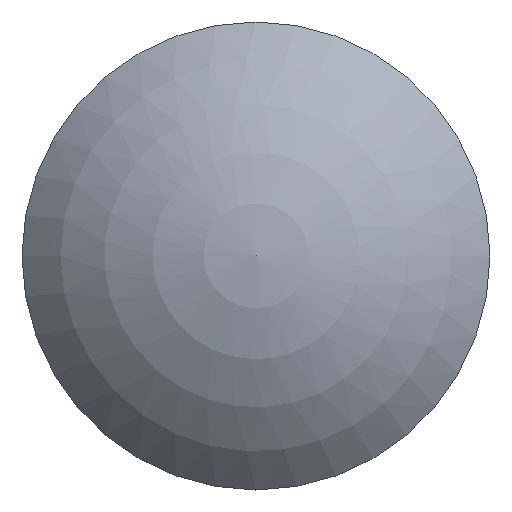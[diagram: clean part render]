
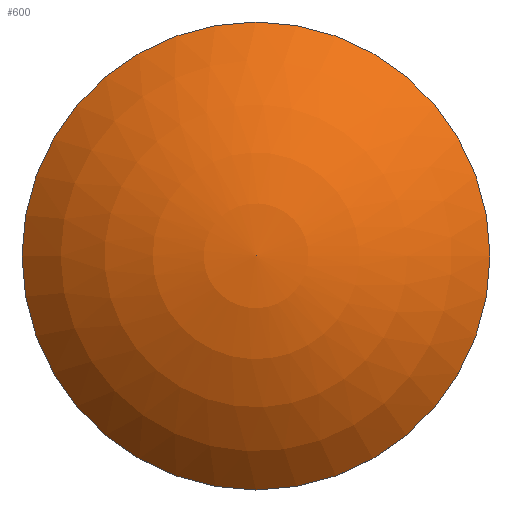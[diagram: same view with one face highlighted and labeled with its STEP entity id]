
A CAD part, top view. The second image highlights one B-rep face of the part: STEP entity #600.
In plain terms, the highlighted spherical face has radius 25.801 mm.
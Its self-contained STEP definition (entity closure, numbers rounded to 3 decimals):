
#533 = CYLINDRICAL_SURFACE('',#534,19.05);
#534 = AXIS2_PLACEMENT_3D('',#535,#536,#537);
#535 = CARTESIAN_POINT('',(0.,0.,0.8));
#536 = DIRECTION('',(0.,0.,1.));
#537 = DIRECTION('',(1.,0.,-0.));
#551 = VERTEX_POINT('',#552);
#552 = CARTESIAN_POINT('',(19.05,0.,1.6));
#573 = EDGE_CURVE('',#551,#551,#574,.T.);
#574 = SURFACE_CURVE('',#575,(#580,#587),.PCURVE_S1.);
#575 = CIRCLE('',#576,19.05);
#576 = AXIS2_PLACEMENT_3D('',#577,#578,#579);
#577 = CARTESIAN_POINT('',(0.,0.,1.6));
#578 = DIRECTION('',(0.,0.,1.));
#579 = DIRECTION('',(1.,0.,-0.));
#580 = PCURVE('',#533,#581);
#581 = DEFINITIONAL_REPRESENTATION('',(#582),#586);
#582 = LINE('',#583,#584);
#583 = CARTESIAN_POINT('',(0.,0.8));
#584 = VECTOR('',#585,1.);
#585 = DIRECTION('',(1.,0.));
#586 = ( GEOMETRIC_REPRESENTATION_CONTEXT(2) 
PARAMETRIC_REPRESENTATION_CONTEXT() REPRESENTATION_CONTEXT('2D SPACE',''
  ) );
#587 = PCURVE('',#588,#593);
#588 = SPHERICAL_SURFACE('',#589,25.801);
#589 = AXIS2_PLACEMENT_3D('',#590,#591,#592);
#590 = CARTESIAN_POINT('',(0.,0.,-15.801));
#591 = DIRECTION('',(0.,0.,1.));
#592 = DIRECTION('',(1.,0.,-0.));
#593 = DEFINITIONAL_REPRESENTATION('',(#594),#598);
#594 = LINE('',#595,#596);
#595 = CARTESIAN_POINT('',(0.,0.74));
#596 = VECTOR('',#597,1.);
#597 = DIRECTION('',(1.,0.));
#598 = ( GEOMETRIC_REPRESENTATION_CONTEXT(2) 
PARAMETRIC_REPRESENTATION_CONTEXT() REPRESENTATION_CONTEXT('2D SPACE',''
  ) );
#600 = ADVANCED_FACE('',(#601),#588,.T.);
#601 = FACE_BOUND('',#602,.T.);
#602 = EDGE_LOOP('',(#603,#604,#628));
#603 = ORIENTED_EDGE('',*,*,#573,.T.);
#604 = ORIENTED_EDGE('',*,*,#605,.T.);
#605 = EDGE_CURVE('',#551,#606,#608,.T.);
#606 = VERTEX_POINT('',#607);
#607 = CARTESIAN_POINT('',(0.,0.,10.));
#608 = SEAM_CURVE('',#609,(#614,#621),.PCURVE_S1.);
#609 = CIRCLE('',#610,25.801);
#610 = AXIS2_PLACEMENT_3D('',#611,#612,#613);
#611 = CARTESIAN_POINT('',(0.,0.,-15.801));
#612 = DIRECTION('',(0.,-1.,0.));
#613 = DIRECTION('',(0.738,0.,0.674));
#614 = PCURVE('',#588,#615);
#615 = DEFINITIONAL_REPRESENTATION('',(#616),#620);
#616 = LINE('',#617,#618);
#617 = CARTESIAN_POINT('',(0.,0.74));
#618 = VECTOR('',#619,1.);
#619 = DIRECTION('',(0.,1.));
#620 = ( GEOMETRIC_REPRESENTATION_CONTEXT(2) 
PARAMETRIC_REPRESENTATION_CONTEXT() REPRESENTATION_CONTEXT('2D SPACE',''
  ) );
#621 = PCURVE('',#588,#622);
#622 = DEFINITIONAL_REPRESENTATION('',(#623),#627);
#623 = LINE('',#624,#625);
#624 = CARTESIAN_POINT('',(6.283,0.74));
#625 = VECTOR('',#626,1.);
#626 = DIRECTION('',(0.,1.));
#627 = ( GEOMETRIC_REPRESENTATION_CONTEXT(2) 
PARAMETRIC_REPRESENTATION_CONTEXT() REPRESENTATION_CONTEXT('2D SPACE',''
  ) );
#628 = ORIENTED_EDGE('',*,*,#605,.F.);
